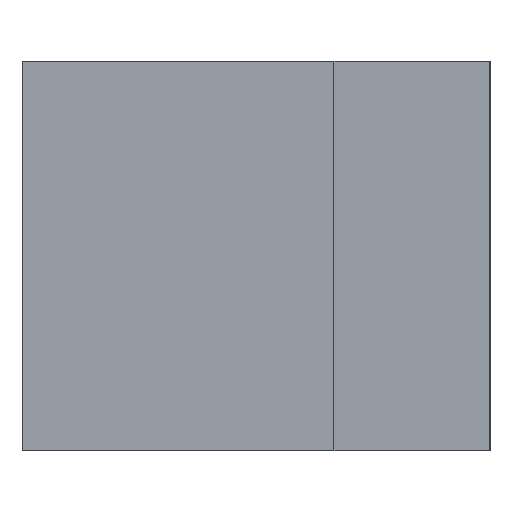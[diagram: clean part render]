
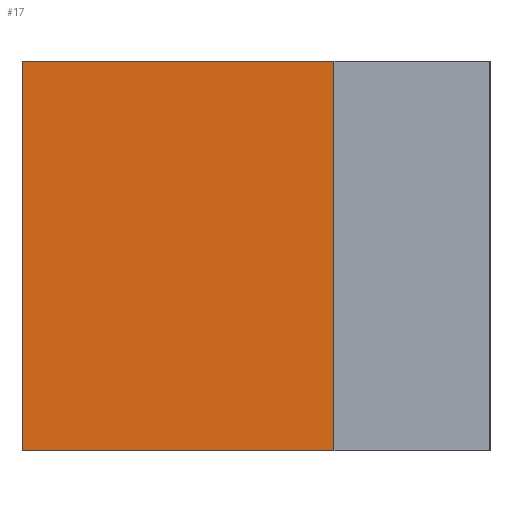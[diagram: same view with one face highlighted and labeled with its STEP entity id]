
A CAD part, left-side view. The second image highlights one B-rep face of the part: STEP entity #17.
In plain terms, the highlighted planar face has unit normal (-1, 0, 0).
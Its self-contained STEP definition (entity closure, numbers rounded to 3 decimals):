
#17 = ADVANCED_FACE('',(#18),#32,.F.);
#18 = FACE_BOUND('',#19,.F.);
#19 = EDGE_LOOP('',(#20,#55,#83,#111));
#20 = ORIENTED_EDGE('',*,*,#21,.F.);
#21 = EDGE_CURVE('',#22,#24,#26,.T.);
#22 = VERTEX_POINT('',#23);
#23 = CARTESIAN_POINT('',(-26.,31.5,-2.5));
#24 = VERTEX_POINT('',#25);
#25 = CARTESIAN_POINT('',(-26.,31.5,2.5));
#26 = SURFACE_CURVE('',#27,(#31,#43),.PCURVE_S1.);
#27 = LINE('',#28,#29);
#28 = CARTESIAN_POINT('',(-26.,31.5,-2.5));
#29 = VECTOR('',#30,1.);
#30 = DIRECTION('',(0.,0.,1.));
#31 = PCURVE('',#32,#37);
#32 = PLANE('',#33);
#33 = AXIS2_PLACEMENT_3D('',#34,#35,#36);
#34 = CARTESIAN_POINT('',(-26.,31.5,-2.5));
#35 = DIRECTION('',(1.,0.,-0.));
#36 = DIRECTION('',(0.,0.,1.));
#37 = DEFINITIONAL_REPRESENTATION('',(#38),#42);
#38 = LINE('',#39,#40);
#39 = CARTESIAN_POINT('',(0.,0.));
#40 = VECTOR('',#41,1.);
#41 = DIRECTION('',(1.,0.));
#42 = ( GEOMETRIC_REPRESENTATION_CONTEXT(2) 
PARAMETRIC_REPRESENTATION_CONTEXT() REPRESENTATION_CONTEXT('2D SPACE',''
  ) );
#43 = PCURVE('',#44,#49);
#44 = PLANE('',#45);
#45 = AXIS2_PLACEMENT_3D('',#46,#47,#48);
#46 = CARTESIAN_POINT('',(-26.,31.5,-2.5));
#47 = DIRECTION('',(-0.,1.,0.));
#48 = DIRECTION('',(0.,0.,1.));
#49 = DEFINITIONAL_REPRESENTATION('',(#50),#54);
#50 = LINE('',#51,#52);
#51 = CARTESIAN_POINT('',(0.,0.));
#52 = VECTOR('',#53,1.);
#53 = DIRECTION('',(1.,0.));
#54 = ( GEOMETRIC_REPRESENTATION_CONTEXT(2) 
PARAMETRIC_REPRESENTATION_CONTEXT() REPRESENTATION_CONTEXT('2D SPACE',''
  ) );
#55 = ORIENTED_EDGE('',*,*,#56,.T.);
#56 = EDGE_CURVE('',#22,#57,#59,.T.);
#57 = VERTEX_POINT('',#58);
#58 = CARTESIAN_POINT('',(-26.,35.5,-2.5));
#59 = SURFACE_CURVE('',#60,(#64,#71),.PCURVE_S1.);
#60 = LINE('',#61,#62);
#61 = CARTESIAN_POINT('',(-26.,31.5,-2.5));
#62 = VECTOR('',#63,1.);
#63 = DIRECTION('',(-0.,1.,0.));
#64 = PCURVE('',#32,#65);
#65 = DEFINITIONAL_REPRESENTATION('',(#66),#70);
#66 = LINE('',#67,#68);
#67 = CARTESIAN_POINT('',(0.,0.));
#68 = VECTOR('',#69,1.);
#69 = DIRECTION('',(0.,-1.));
#70 = ( GEOMETRIC_REPRESENTATION_CONTEXT(2) 
PARAMETRIC_REPRESENTATION_CONTEXT() REPRESENTATION_CONTEXT('2D SPACE',''
  ) );
#71 = PCURVE('',#72,#77);
#72 = PLANE('',#73);
#73 = AXIS2_PLACEMENT_3D('',#74,#75,#76);
#74 = CARTESIAN_POINT('',(-26.,31.5,-2.5));
#75 = DIRECTION('',(0.,0.,1.));
#76 = DIRECTION('',(1.,0.,-0.));
#77 = DEFINITIONAL_REPRESENTATION('',(#78),#82);
#78 = LINE('',#79,#80);
#79 = CARTESIAN_POINT('',(0.,0.));
#80 = VECTOR('',#81,1.);
#81 = DIRECTION('',(0.,1.));
#82 = ( GEOMETRIC_REPRESENTATION_CONTEXT(2) 
PARAMETRIC_REPRESENTATION_CONTEXT() REPRESENTATION_CONTEXT('2D SPACE',''
  ) );
#83 = ORIENTED_EDGE('',*,*,#84,.T.);
#84 = EDGE_CURVE('',#57,#85,#87,.T.);
#85 = VERTEX_POINT('',#86);
#86 = CARTESIAN_POINT('',(-26.,35.5,2.5));
#87 = SURFACE_CURVE('',#88,(#92,#99),.PCURVE_S1.);
#88 = LINE('',#89,#90);
#89 = CARTESIAN_POINT('',(-26.,35.5,-2.5));
#90 = VECTOR('',#91,1.);
#91 = DIRECTION('',(0.,0.,1.));
#92 = PCURVE('',#32,#93);
#93 = DEFINITIONAL_REPRESENTATION('',(#94),#98);
#94 = LINE('',#95,#96);
#95 = CARTESIAN_POINT('',(0.,-4.));
#96 = VECTOR('',#97,1.);
#97 = DIRECTION('',(1.,0.));
#98 = ( GEOMETRIC_REPRESENTATION_CONTEXT(2) 
PARAMETRIC_REPRESENTATION_CONTEXT() REPRESENTATION_CONTEXT('2D SPACE',''
  ) );
#99 = PCURVE('',#100,#105);
#100 = PLANE('',#101);
#101 = AXIS2_PLACEMENT_3D('',#102,#103,#104);
#102 = CARTESIAN_POINT('',(-26.,35.5,-2.5));
#103 = DIRECTION('',(-0.,1.,0.));
#104 = DIRECTION('',(0.,0.,1.));
#105 = DEFINITIONAL_REPRESENTATION('',(#106),#110);
#106 = LINE('',#107,#108);
#107 = CARTESIAN_POINT('',(0.,0.));
#108 = VECTOR('',#109,1.);
#109 = DIRECTION('',(1.,0.));
#110 = ( GEOMETRIC_REPRESENTATION_CONTEXT(2) 
PARAMETRIC_REPRESENTATION_CONTEXT() REPRESENTATION_CONTEXT('2D SPACE',''
  ) );
#111 = ORIENTED_EDGE('',*,*,#112,.F.);
#112 = EDGE_CURVE('',#24,#85,#113,.T.);
#113 = SURFACE_CURVE('',#114,(#118,#125),.PCURVE_S1.);
#114 = LINE('',#115,#116);
#115 = CARTESIAN_POINT('',(-26.,31.5,2.5));
#116 = VECTOR('',#117,1.);
#117 = DIRECTION('',(-0.,1.,0.));
#118 = PCURVE('',#32,#119);
#119 = DEFINITIONAL_REPRESENTATION('',(#120),#124);
#120 = LINE('',#121,#122);
#121 = CARTESIAN_POINT('',(5.,0.));
#122 = VECTOR('',#123,1.);
#123 = DIRECTION('',(0.,-1.));
#124 = ( GEOMETRIC_REPRESENTATION_CONTEXT(2) 
PARAMETRIC_REPRESENTATION_CONTEXT() REPRESENTATION_CONTEXT('2D SPACE',''
  ) );
#125 = PCURVE('',#126,#131);
#126 = PLANE('',#127);
#127 = AXIS2_PLACEMENT_3D('',#128,#129,#130);
#128 = CARTESIAN_POINT('',(-26.,31.5,2.5));
#129 = DIRECTION('',(0.,0.,1.));
#130 = DIRECTION('',(1.,0.,-0.));
#131 = DEFINITIONAL_REPRESENTATION('',(#132),#136);
#132 = LINE('',#133,#134);
#133 = CARTESIAN_POINT('',(0.,0.));
#134 = VECTOR('',#135,1.);
#135 = DIRECTION('',(0.,1.));
#136 = ( GEOMETRIC_REPRESENTATION_CONTEXT(2) 
PARAMETRIC_REPRESENTATION_CONTEXT() REPRESENTATION_CONTEXT('2D SPACE',''
  ) );
